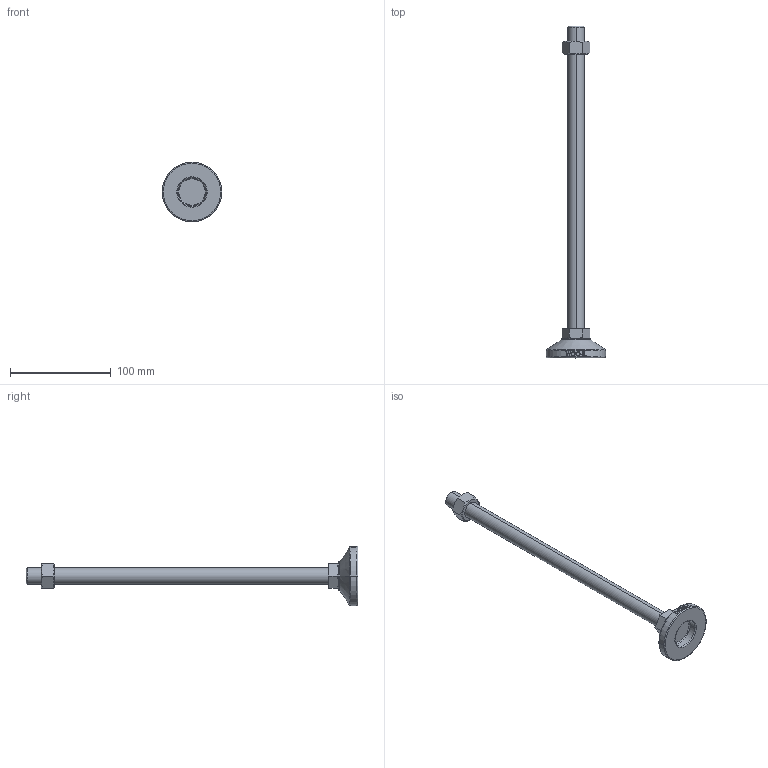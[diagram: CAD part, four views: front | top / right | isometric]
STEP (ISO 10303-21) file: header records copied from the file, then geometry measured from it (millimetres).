
FILE_DESCRIPTION (( 'STEP AP214' ), '1' );
FILE_NAME ('MF59-M16-300.step', '2021-02-03T08:18:26', ( '' ), ( '' ), 'SwSTEP 2.0', 'SolidWorks 2019', '' );
FILE_SCHEMA (( 'AUTOMOTIVE_DESIGN' ));
Length unit declared in the file: millimetre
Products named in the file (2): MF59-M16-300
Bounding box: 59 x 329 x 59 mm (x, y, z)
Volume: 102012.9 mm3; surface area: 27089.6 mm2
Topology: 3 solids, 3 shells, 106 faces, 243 edges, 154 vertices
Faces by surface type: plane 48, cylinder 18, bspline 16, cone 14, torus 10
Entity records: 4448 total; most frequent: CARTESIAN_POINT 2105, ORIENTED_EDGE 486, DIRECTION 439, EDGE_CURVE 243, AXIS2_PLACEMENT_3D 170, VERTEX_POINT 154, EDGE_LOOP 119, FACE_OUTER_BOUND 106
